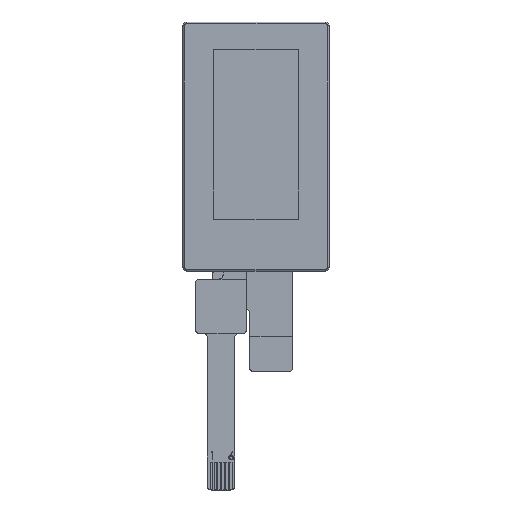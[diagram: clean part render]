
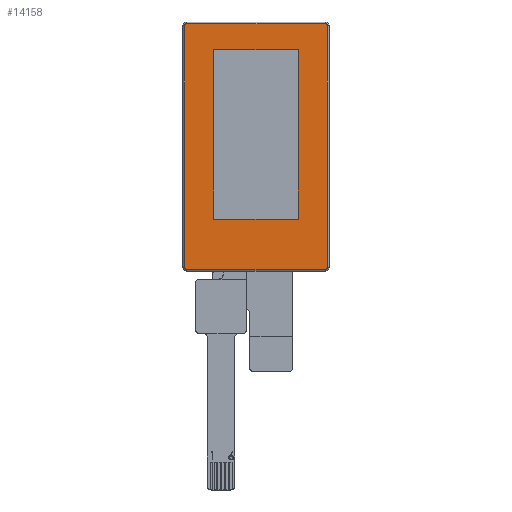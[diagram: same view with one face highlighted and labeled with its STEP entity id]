
A CAD part, top view. The second image highlights one B-rep face of the part: STEP entity #14158.
In plain terms, the highlighted planar face has unit normal (0, 0, 1).
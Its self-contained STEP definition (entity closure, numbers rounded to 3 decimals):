
#83 = AXIS2_PLACEMENT_3D ( 'NONE', #15431, #5306, #2060 ) ;
#175 = EDGE_CURVE ( 'NONE', #6490, #15224, #8688, .T. ) ;
#1143 = VERTEX_POINT ( 'NONE', #14486 ) ;
#1322 = VECTOR ( 'NONE', #14769, 1000. ) ;
#1349 = VERTEX_POINT ( 'NONE', #10582 ) ;
#1635 = VECTOR ( 'NONE', #7174, 1000. ) ;
#1962 = CARTESIAN_POINT ( 'NONE',  ( 18.2, -31.7, 0.55 ) ) ;
#1971 = EDGE_CURVE ( 'NONE', #15224, #3827, #13325, .T. ) ;
#2042 = EDGE_CURVE ( 'NONE', #20160, #5211, #7782, .T. ) ;
#2060 = DIRECTION ( 'NONE',  ( 1., 0., 0. ) ) ;
#2116 = PLANE ( 'NONE',  #15921 ) ;
#2182 = DIRECTION ( 'NONE',  ( 0., 1., 0. ) ) ;
#2316 = DIRECTION ( 'NONE',  ( 0., -1., 0. ) ) ;
#2347 = CARTESIAN_POINT ( 'NONE',  ( 18.5, -31.4, 0.55 ) ) ;
#2356 = CARTESIAN_POINT ( 'NONE',  ( 0., -3.53, 0.55 ) ) ;
#2427 = DIRECTION ( 'NONE',  ( 1., 0., 0. ) ) ;
#2495 = DIRECTION ( 'NONE',  ( 1., 0., 0. ) ) ;
#2526 = LINE ( 'NONE', #5661, #6932 ) ;
#2532 = DIRECTION ( 'NONE',  ( 1., 0., 0. ) ) ;
#3032 = AXIS2_PLACEMENT_3D ( 'NONE', #7577, #18811, #2427 ) ;
#3322 = VERTEX_POINT ( 'NONE', #5105 ) ;
#3391 = CIRCLE ( 'NONE', #13006, 0.3 ) ;
#3616 = VECTOR ( 'NONE', #12359, 1000. ) ;
#3758 = EDGE_CURVE ( 'NONE', #14674, #20160, #17765, .T. ) ;
#3827 = VERTEX_POINT ( 'NONE', #9449 ) ;
#3863 = CARTESIAN_POINT ( 'NONE',  ( 0.5, -31.7, 0.55 ) ) ;
#4056 = FACE_BOUND ( 'NONE', #12014, .T. ) ;
#5025 = VERTEX_POINT ( 'NONE', #16241 ) ;
#5105 = CARTESIAN_POINT ( 'NONE',  ( 0.2, -31.4, 0.55 ) ) ;
#5211 = VERTEX_POINT ( 'NONE', #5674 ) ;
#5306 = DIRECTION ( 'NONE',  ( 0., 0., 1. ) ) ;
#5371 = DIRECTION ( 'NONE',  ( 0., 1., 0. ) ) ;
#5553 = ORIENTED_EDGE ( 'NONE', *, *, #19290, .T. ) ;
#5600 = DIRECTION ( 'NONE',  ( 1., 0., 0. ) ) ;
#5661 = CARTESIAN_POINT ( 'NONE',  ( 0.2, -31.4, 0.55 ) ) ;
#5674 = CARTESIAN_POINT ( 'NONE',  ( 3.95, -25.226, 0.55 ) ) ;
#6490 = VERTEX_POINT ( 'NONE', #2347 ) ;
#6811 = VECTOR ( 'NONE', #12507, 1000. ) ;
#6924 = ORIENTED_EDGE ( 'NONE', *, *, #2042, .T. ) ;
#6932 = VECTOR ( 'NONE', #2316, 1000. ) ;
#7174 = DIRECTION ( 'NONE',  ( -1., 0., 0. ) ) ;
#7382 = DIRECTION ( 'NONE',  ( 0., 0., 1. ) ) ;
#7508 = VECTOR ( 'NONE', #2182, 1000. ) ;
#7577 = CARTESIAN_POINT ( 'NONE',  ( 18.2, -0.5, 0.55 ) ) ;
#7670 = EDGE_CURVE ( 'NONE', #3827, #5025, #20221, .T. ) ;
#7782 = LINE ( 'NONE', #14036, #6811 ) ;
#8198 = EDGE_CURVE ( 'NONE', #16429, #14674, #11912, .T. ) ;
#8659 = ORIENTED_EDGE ( 'NONE', *, *, #13201, .T. ) ;
#8688 = LINE ( 'NONE', #11902, #9273 ) ;
#9082 = CARTESIAN_POINT ( 'NONE',  ( 0.5, -31.4, 0.55 ) ) ;
#9273 = VECTOR ( 'NONE', #5371, 1000. ) ;
#9449 = CARTESIAN_POINT ( 'NONE',  ( 18.2, -0.2, 0.55 ) ) ;
#9564 = VERTEX_POINT ( 'NONE', #3863 ) ;
#9596 = ORIENTED_EDGE ( 'NONE', *, *, #3758, .T. ) ;
#9854 = ORIENTED_EDGE ( 'NONE', *, *, #13406, .T. ) ;
#10170 = CARTESIAN_POINT ( 'NONE',  ( 0., -0.2, 0.55 ) ) ;
#10582 = CARTESIAN_POINT ( 'NONE',  ( 18.2, -31.7, 0.55 ) ) ;
#10855 = CARTESIAN_POINT ( 'NONE',  ( 3.95, -3.53, 0.55 ) ) ;
#11157 = CARTESIAN_POINT ( 'NONE',  ( 14.75, 0., 0.55 ) ) ;
#11551 = CARTESIAN_POINT ( 'NONE',  ( 14.75, -25.226, 0.55 ) ) ;
#11902 = CARTESIAN_POINT ( 'NONE',  ( 18.5, 0., 0.55 ) ) ;
#11912 = LINE ( 'NONE', #2356, #20515 ) ;
#11999 = CARTESIAN_POINT ( 'NONE',  ( 14.75, -3.53, 0.55 ) ) ;
#12014 = EDGE_LOOP ( 'NONE', ( #6924, #5553, #21146, #9596 ) ) ;
#12303 = DIRECTION ( 'NONE',  ( 0., 0., 1. ) ) ;
#12359 = DIRECTION ( 'NONE',  ( 0., -1., 0. ) ) ;
#12424 = CIRCLE ( 'NONE', #15906, 0.3 ) ;
#12507 = DIRECTION ( 'NONE',  ( -1., 0., 0. ) ) ;
#13006 = AXIS2_PLACEMENT_3D ( 'NONE', #9082, #12303, #2532 ) ;
#13201 = EDGE_CURVE ( 'NONE', #5025, #1143, #12424, .T. ) ;
#13325 = CIRCLE ( 'NONE', #3032, 0.3 ) ;
#13357 = LINE ( 'NONE', #1962, #1322 ) ;
#13406 = EDGE_CURVE ( 'NONE', #1349, #6490, #16252, .T. ) ;
#13437 = ORIENTED_EDGE ( 'NONE', *, *, #1971, .T. ) ;
#13733 = FACE_OUTER_BOUND ( 'NONE', #13816, .T. ) ;
#13790 = LINE ( 'NONE', #16942, #7508 ) ;
#13816 = EDGE_LOOP ( 'NONE', ( #13989, #8659, #19349, #20673, #17616, #9854, #13922, #13437 ) ) ;
#13922 = ORIENTED_EDGE ( 'NONE', *, *, #175, .T. ) ;
#13989 = ORIENTED_EDGE ( 'NONE', *, *, #7670, .T. ) ;
#14036 = CARTESIAN_POINT ( 'NONE',  ( 0., -25.226, 0.55 ) ) ;
#14158 = ADVANCED_FACE ( 'NONE', ( #13733, #4056 ), #2116, .T. ) ;
#14486 = CARTESIAN_POINT ( 'NONE',  ( 0.2, -0.5, 0.55 ) ) ;
#14674 = VERTEX_POINT ( 'NONE', #11999 ) ;
#14769 = DIRECTION ( 'NONE',  ( 1., 0., 0. ) ) ;
#15224 = VERTEX_POINT ( 'NONE', #21084 ) ;
#15431 = CARTESIAN_POINT ( 'NONE',  ( 18.2, -31.4, 0.55 ) ) ;
#15480 = DIRECTION ( 'NONE',  ( 1., 0., 0. ) ) ;
#15536 = DIRECTION ( 'NONE',  ( 0., 0., 1. ) ) ;
#15906 = AXIS2_PLACEMENT_3D ( 'NONE', #20487, #15536, #2495 ) ;
#15921 = AXIS2_PLACEMENT_3D ( 'NONE', #18608, #7382, #15480 ) ;
#15940 = EDGE_CURVE ( 'NONE', #1143, #3322, #2526, .T. ) ;
#16241 = CARTESIAN_POINT ( 'NONE',  ( 0.5, -0.2, 0.55 ) ) ;
#16252 = CIRCLE ( 'NONE', #83, 0.3 ) ;
#16429 = VERTEX_POINT ( 'NONE', #10855 ) ;
#16942 = CARTESIAN_POINT ( 'NONE',  ( 3.95, 0., 0.55 ) ) ;
#17616 = ORIENTED_EDGE ( 'NONE', *, *, #19147, .T. ) ;
#17765 = LINE ( 'NONE', #11157, #3616 ) ;
#18608 = CARTESIAN_POINT ( 'NONE',  ( 0., 0., 0.55 ) ) ;
#18811 = DIRECTION ( 'NONE',  ( 0., 0., 1. ) ) ;
#19147 = EDGE_CURVE ( 'NONE', #9564, #1349, #13357, .T. ) ;
#19290 = EDGE_CURVE ( 'NONE', #5211, #16429, #13790, .T. ) ;
#19349 = ORIENTED_EDGE ( 'NONE', *, *, #15940, .T. ) ;
#20160 = VERTEX_POINT ( 'NONE', #11551 ) ;
#20197 = EDGE_CURVE ( 'NONE', #3322, #9564, #3391, .T. ) ;
#20221 = LINE ( 'NONE', #10170, #1635 ) ;
#20487 = CARTESIAN_POINT ( 'NONE',  ( 0.5, -0.5, 0.55 ) ) ;
#20515 = VECTOR ( 'NONE', #5600, 1000. ) ;
#20673 = ORIENTED_EDGE ( 'NONE', *, *, #20197, .T. ) ;
#21084 = CARTESIAN_POINT ( 'NONE',  ( 18.5, -0.5, 0.55 ) ) ;
#21146 = ORIENTED_EDGE ( 'NONE', *, *, #8198, .T. ) ;
